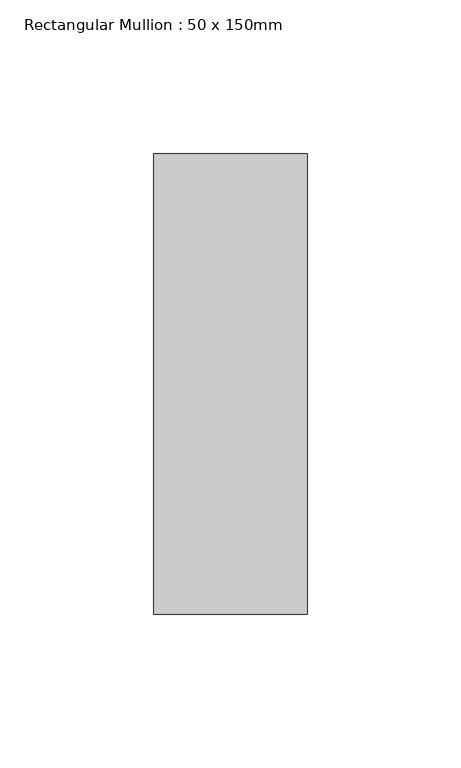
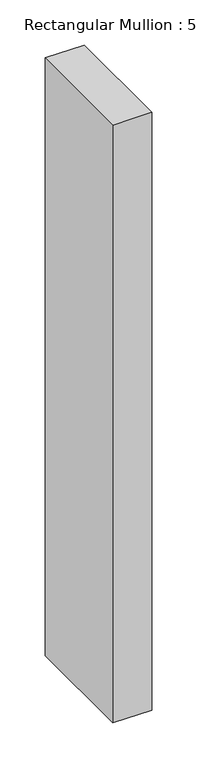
"""IFC4 building model written with IfcOpenShell, lengths in millimetres: member geometry, Rectangular Mullion : 50 x 150mm."""

from ifc_helpers import new_model, si_unit, frame, origin, place, context, project, spatial, polyline, outline, extrude, source, transform, mapped, element, save


def rectangular_mullion_50_x_150mm_34df3741(model_context):
    return source(origin(), model_context, "Body", "SweptSolid", [
        extrude(outline(polyline([(0.0, 75.0), (0.0, -75.0), (-50.0, -75.0), (-50.0, 75.0), (0.0, 75.0)])), frame((0.0, 0.0, -810.3053383), z_axis=(0.0, 0.0, 1.0), x_axis=(1.0, 0.0, 0.0)), (0.0, 0.0, 1.0), 810.3053383),
    ])


if __name__ == "__main__":
    model = new_model("IFC4")
    model_context = context("Model", 3, world=origin())
    ifc_project = project(units=[si_unit("LENGTHUNIT", "METRE", prefix="MILLI")], contexts=[model_context])
    site = spatial("IfcSite", under=ifc_project)
    building = spatial("IfcBuilding", under=site)
    placement = place(None, origin())
    rectangular_mullion_50_x_150mm_shape = rectangular_mullion_50_x_150mm_34df3741(model_context)
    element("IfcMember", 1, ObjectType="Rectangular Mullion : 50 x 150mm", at=placement, inside=building, context=model_context, shape_type="MappedRepresentation", body=[
        mapped(rectangular_mullion_50_x_150mm_shape, transform((0.0, 0.0, 0.0), x_axis=(1.0, 0.0, 0.0), y_axis=(0.0, 1.0, 0.0), z_axis=(0.0, 0.0, 1.0))),
    ])
    save(model, "model.ifc")
